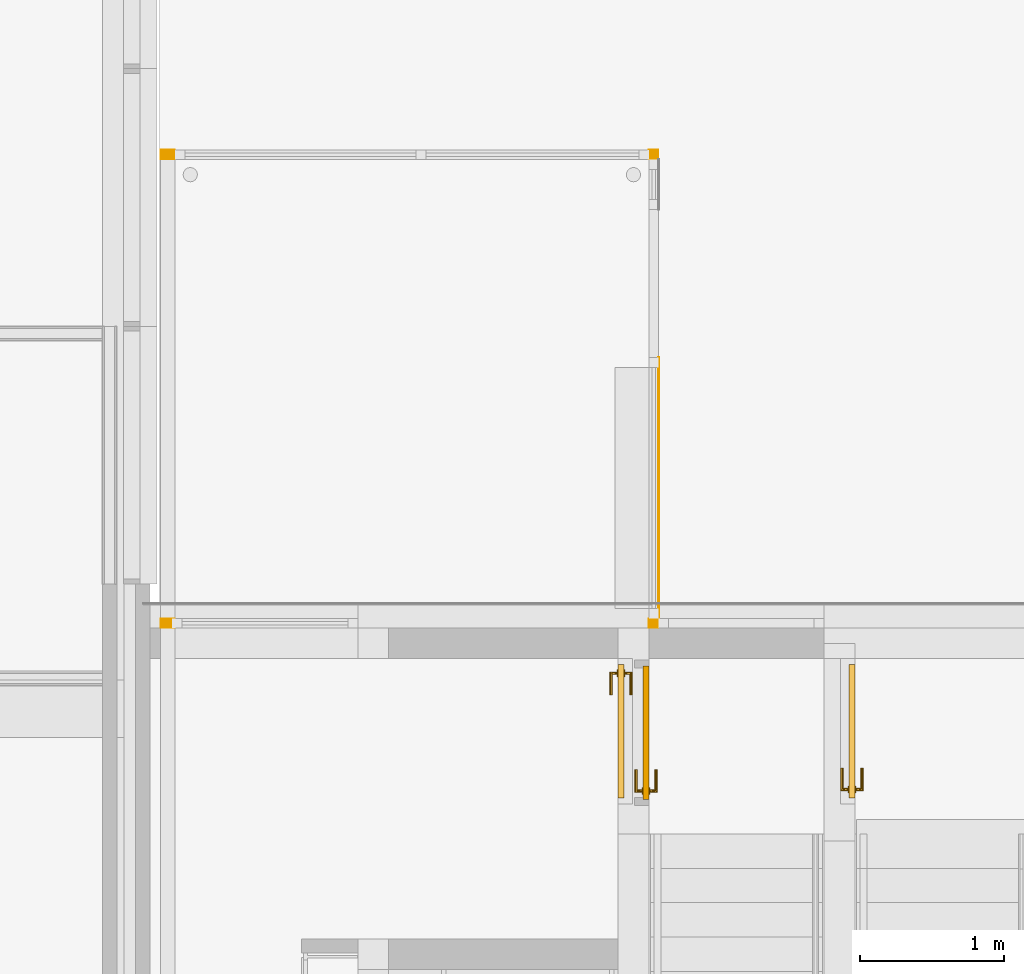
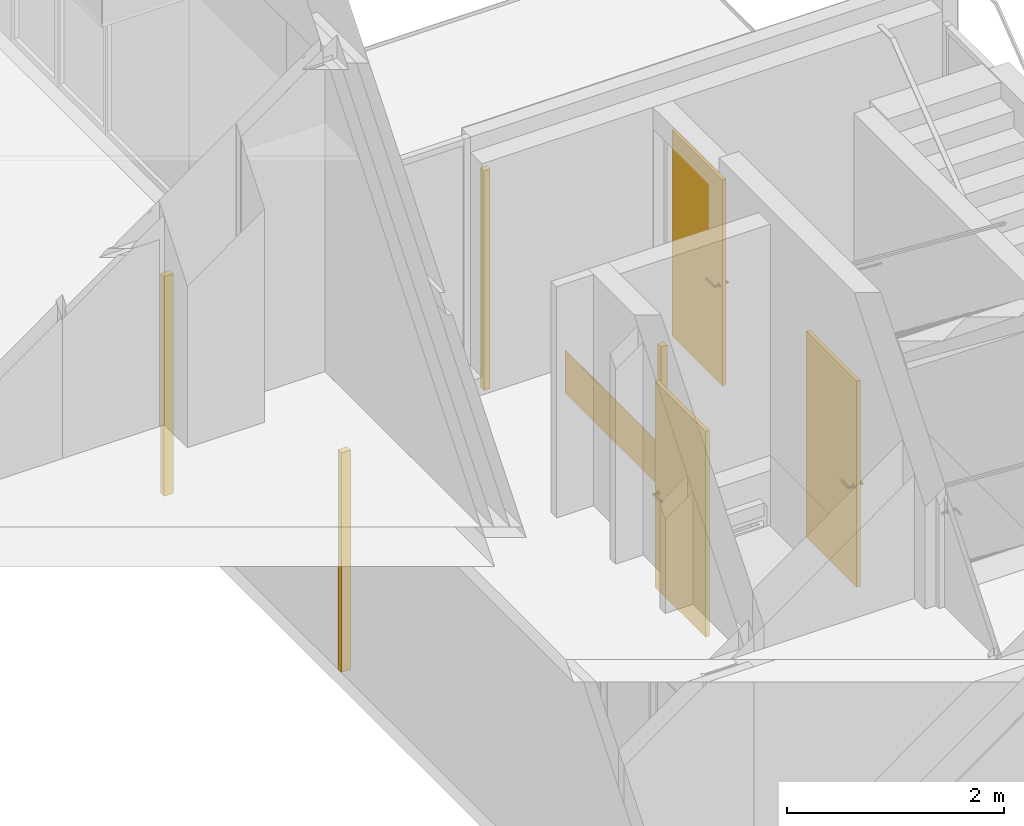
# One storey, part 92 of 117: 3 doors, 3 windows.
"""IFC2X3 building model written with IfcOpenShell, lengths in millimetres."""

from ifc_helpers import new_model, entity, si_unit, converted_unit, derived_unit, money_unit, direction, frame, origin_with_axes, place, context, subcontext, project, spatial, faceted_brep, source, transform, mapped, material, type_object, type_shapes, element, save


model = new_model("IFC2X3")

# Units and contexts
model_context = context("Model", 3, precision=0.01, world=origin_with_axes(), true_north=direction((0.0, 1.0)))
body_context = subcontext(model_context, "Body", "Model", "MODEL_VIEW")
ifc_project = project(units=[si_unit("LENGTHUNIT", "METRE", prefix="MILLI"), si_unit("AREAUNIT", "SQUARE_METRE"), si_unit("VOLUMEUNIT", "CUBIC_METRE"), converted_unit("PLANEANGLEUNIT", "DEGREE", entity("IfcPlaneAngleMeasure", 0.0174532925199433), si_unit("PLANEANGLEUNIT", "RADIAN"), dimensions=[0, 0, 0, 0, 0, 0, 0]), money_unit("EUR"), converted_unit("TIMEUNIT", "Year", entity("IfcTimeMeasure", 31557600.0), si_unit("TIMEUNIT", "SECOND"), dimensions=[0, 0, 1, 0, 0, 0, 0]), si_unit("MASSUNIT", "GRAM", prefix="KILO"), si_unit("THERMODYNAMICTEMPERATUREUNIT", "DEGREE_CELSIUS"), si_unit("LUMINOUSINTENSITYUNIT", "LUMEN"), si_unit("ENERGYUNIT", "JOULE", prefix="MEGA"), derived_unit("THERMALCONDUCTANCEUNIT", [(si_unit("POWERUNIT", "WATT"), 1), (si_unit("LENGTHUNIT", "METRE"), -1), (si_unit("THERMODYNAMICTEMPERATUREUNIT", "KELVIN"), -1)]), derived_unit("SPECIFICHEATCAPACITYUNIT", [(si_unit("ENERGYUNIT", "JOULE"), 1), (si_unit("MASSUNIT", "GRAM", prefix="KILO"), -1), (si_unit("THERMODYNAMICTEMPERATUREUNIT", "KELVIN"), -1)]), derived_unit("MASSDENSITYUNIT", [(si_unit("MASSUNIT", "GRAM", prefix="KILO"), 1), (si_unit("VOLUMEUNIT", "CUBIC_METRE"), -1)])], contexts=[model_context])

# Site, building, storey
site_placement = place(None, origin_with_axes())
site = spatial("IfcSite", under=ifc_project, at=site_placement, Name="Site", CompositionType="ELEMENT")
building_placement = place(site_placement, origin_with_axes())
building = spatial("IfcBuilding", under=site, at=building_placement, Name="Naam gebouw", CompositionType="ELEMENT")
storey_placement = place(building_placement, frame((0.0, 0.0, 4150.0), z_axis=(0.0, 0.0, 1.0), x_axis=(1.0, 0.0, 0.0)))
storey = spatial("IfcBuildingStorey", under=building, at=storey_placement, Name="1e verdieping N", CompositionType="ELEMENT", Elevation=4150.0)

# Doors
ifc_material_1 = material(Name="<Unnamed>")
door_style = type_object("IfcDoorStyle", Name="NLRS_32_deur stomp dicht_WID:Deur", ConstructionType="NOTDEFINED", OperationType="NOTDEFINED", ParameterTakesPrecedence=False, Sizeable=False)
shared_shape = source(origin_with_axes(), body_context, "Body", "Brep", [
    faceted_brep([(410.0000000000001, 65.96445239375, 1091.33974596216), (407.58819045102, 65.96445239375, 1090.34074173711), (417.5000000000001, 65.96445239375, 1078.34936490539), (410.0000000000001, 74.00000000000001, 1091.33974596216), (407.58819045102, 74.00000000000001, 1090.34074173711), (411.4704761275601, 65.96445239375, 1075.85185434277), (422.6776695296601, 65.96445239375, 1082.32233047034), (412.0710678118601, 65.96445239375, 1092.92893218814), (412.0710678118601, 74.00000000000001, 1092.92893218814), (417.5000000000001, 74.00000000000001, 1078.34936490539), (405.0, 74.00000000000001, 1090.0), (405.0, 65.96445239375, 1090.0), (411.4704761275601, 74.00000000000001, 1075.85185434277), (422.6776695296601, 74.00000000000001, 1082.32233047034), (413.66025403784, 74.00000000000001, 1095.0), (413.66025403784, 65.96445239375, 1095.0), (402.41180954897, 65.96445239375, 1090.34074173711), (402.41180954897, 74.00000000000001, 1090.34074173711), (405.0, 65.96445239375, 1075.0), (405.0, 74.00000000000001, 1075.0), (426.6506350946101, 65.96445239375, 1087.5), (426.6506350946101, 74.00000000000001, 1087.5), (414.65925826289, 65.96445239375, 1097.41180954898), (414.65925826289, 74.00000000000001, 1097.41180954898), (400.0, 74.00000000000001, 1091.33974596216), (400.0, 65.96445239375, 1091.33974596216), (398.52952387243, 65.96445239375, 1075.85185434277), (398.52952387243, 74.00000000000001, 1075.85185434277), (429.14814565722, 65.96445239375, 1093.52952387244), (429.14814565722, 74.00000000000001, 1093.52952387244), (415.0000000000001, 65.96445239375, 1100.0), (415.0000000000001, 74.00000000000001, 1100.0), (397.92893218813, 74.00000000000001, 1092.92893218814), (397.92893218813, 65.96445239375, 1092.92893218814), (392.5, 65.96445239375, 1078.34936490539), (392.5, 74.00000000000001, 1078.34936490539), (430.0000000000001, 65.96445239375, 1100.0), (430.0000000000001, 74.00000000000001, 1100.0), (414.65925826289, 65.96445239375, 1102.58819045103), (414.65925826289, 74.00000000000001, 1102.58819045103), (396.3397459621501, 74.00000000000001, 1095.0), (396.3397459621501, 65.96445239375, 1095.0), (387.32233047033, 65.96445239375, 1082.32233047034), (387.32233047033, 74.00000000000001, 1082.32233047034), (429.14814565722, 74.00000000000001, 1106.47047612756), (429.14814565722, 65.96445239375, 1106.47047612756), (413.66025403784, 65.96445239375, 1105.0), (413.66025403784, 74.00000000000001, 1105.0), (395.34074173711, 65.96445239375, 1097.41180954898), (395.34074173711, 74.00000000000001, 1097.41180954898), (383.3493649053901, 74.00000000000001, 1087.5), (383.3493649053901, 65.96445239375, 1087.5), (426.6506350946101, 74.00000000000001, 1112.5), (426.6506350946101, 65.96445239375, 1112.5), (412.0710678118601, 74.00000000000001, 1107.07106781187), (412.0710678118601, 65.96445239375, 1107.07106781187), (380.8518543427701, 74.00000000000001, 1093.52952387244), (395.0, 65.96445239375, 1100.0), (395.0, 74.00000000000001, 1100.0), (380.8518543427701, 65.96445239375, 1093.52952387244), (422.6776695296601, 74.00000000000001, 1117.67766952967), (422.6776695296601, 65.96445239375, 1117.67766952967), (410.0000000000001, 65.96445239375, 1108.66025403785), (410.0000000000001, 74.00000000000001, 1108.66025403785), (380.0000000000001, 74.00000000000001, 1100.0), (395.34074173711, 74.00000000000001, 1102.58819045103), (395.34074173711, 65.96445239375, 1102.58819045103), (380.0000000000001, 65.96445239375, 1100.0), (417.5000000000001, 65.96445239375, 1121.65063509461), (417.5000000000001, 74.00000000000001, 1121.65063509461), (407.58819045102, 65.96445239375, 1109.65925826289), (407.58819045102, 74.00000000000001, 1109.65925826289), (380.8518543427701, 74.00000000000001, 1106.47047612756), (396.3397459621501, 74.00000000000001, 1105.0), (396.3397459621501, 65.96445239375, 1105.0), (380.8518543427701, 65.96445239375, 1106.47047612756), (411.4704761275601, 65.96445239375, 1124.14814565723), (411.4704761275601, 74.00000000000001, 1124.14814565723), (405.0, 65.96445239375, 1110.0), (405.0, 74.00000000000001, 1110.0), (383.3493649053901, 74.00000000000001, 1112.5), (397.92893218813, 74.00000000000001, 1107.07106781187), (397.92893218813, 65.96445239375, 1107.07106781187), (383.3493649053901, 65.96445239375, 1112.5), (405.0, 65.96445239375, 1125.0), (405.0, 74.00000000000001, 1125.0), (402.41180954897, 65.96445239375, 1109.65925826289), (402.41180954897, 74.00000000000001, 1109.65925826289), (387.32233047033, 74.00000000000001, 1117.67766952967), (400.0, 65.96445239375, 1108.66025403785), (400.0, 74.00000000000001, 1108.66025403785), (387.32233047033, 65.96445239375, 1117.67766952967), (398.52952387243, 74.00000000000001, 1124.14814565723), (398.52952387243, 65.96445239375, 1124.14814565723), (392.5, 74.00000000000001, 1121.65063509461), (392.5, 65.96445239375, 1121.65063509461)], [[[0, 1, 2]], [[1, 0, 3, 4]], [[1, 5, 2]], [[6, 0, 2]], [[0, 7, 8, 3]], [[3, 9, 4]], [[10, 11, 1, 4]], [[5, 1, 11]], [[9, 2, 5, 12]], [[0, 6, 7]], [[9, 13, 6, 2]], [[14, 8, 7, 15]], [[13, 3, 8]], [[13, 9, 3]], [[12, 4, 9]], [[16, 11, 10, 17]], [[4, 12, 10]], [[5, 11, 18]], [[12, 5, 18, 19]], [[6, 20, 7]], [[20, 6, 13, 21]], [[21, 8, 14]], [[7, 20, 15]], [[22, 23, 14, 15]], [[13, 8, 21]], [[16, 18, 11]], [[19, 17, 10]], [[16, 17, 24, 25]], [[10, 12, 19]], [[18, 26, 27, 19]], [[28, 20, 21, 29]], [[21, 14, 29]], [[22, 15, 20]], [[30, 31, 23, 22]], [[23, 29, 14]], [[18, 16, 26]], [[17, 19, 27]], [[17, 27, 24]], [[25, 24, 32, 33]], [[16, 25, 26]], [[26, 34, 35, 27]], [[28, 22, 20]], [[36, 28, 29, 37]], [[30, 38, 39, 31]], [[23, 31, 37]], [[28, 30, 22]], [[37, 29, 23]], [[27, 35, 24]], [[32, 24, 35]], [[32, 40, 41, 33]], [[33, 34, 25]], [[34, 26, 25]], [[34, 42, 43, 35]], [[30, 28, 36]], [[44, 45, 36, 37]], [[38, 30, 36]], [[38, 46, 47, 39]], [[44, 31, 39]], [[31, 44, 37]], [[32, 35, 43]], [[43, 40, 32]], [[48, 41, 40, 49]], [[41, 42, 33]], [[34, 33, 42]], [[50, 43, 42, 51]], [[52, 53, 45, 44]], [[36, 45, 38]], [[38, 45, 46]], [[54, 47, 46, 55]], [[39, 47, 52]], [[44, 39, 52]], [[43, 50, 40]], [[48, 51, 41]], [[56, 49, 40]], [[57, 48, 49, 58]], [[51, 42, 41]], [[50, 51, 59, 56]], [[52, 60, 61, 53]], [[53, 46, 45]], [[54, 52, 47]], [[53, 55, 46]], [[62, 63, 54, 55]], [[56, 40, 50]], [[59, 51, 48]], [[64, 49, 56]], [[59, 48, 57]], [[64, 58, 49]], [[57, 58, 65, 66]], [[56, 59, 67, 64]], [[60, 52, 54]], [[68, 61, 60, 69]], [[61, 55, 53]], [[70, 71, 63, 62]], [[63, 60, 54]], [[61, 62, 55]], [[59, 57, 67]], [[72, 58, 64]], [[72, 65, 58]], [[66, 65, 73, 74]], [[67, 57, 66]], [[67, 75, 72, 64]], [[61, 68, 62]], [[60, 63, 69]], [[76, 68, 69, 77]], [[70, 78, 79, 71]], [[63, 71, 69]], [[62, 68, 70]], [[72, 80, 65]], [[65, 80, 73]], [[73, 81, 82, 74]], [[75, 66, 74]], [[67, 66, 75]], [[75, 83, 80, 72]], [[76, 70, 68]], [[71, 77, 69]], [[84, 76, 77, 85]], [[70, 76, 78]], [[79, 78, 86, 87]], [[77, 71, 79]], [[80, 88, 73]], [[73, 88, 81]], [[89, 82, 81, 90]], [[91, 74, 82]], [[75, 74, 83]], [[83, 91, 88, 80]], [[78, 76, 84]], [[77, 79, 85]], [[92, 93, 84, 85]], [[84, 86, 78]], [[86, 89, 90, 87]], [[87, 85, 79]], [[94, 81, 88]], [[82, 89, 95]], [[81, 94, 90]], [[91, 83, 74]], [[82, 95, 91]], [[94, 88, 91, 95]], [[94, 95, 93, 92]], [[86, 84, 93]], [[85, 87, 92]], [[86, 93, 89]], [[87, 90, 92]], [[93, 95, 89]], [[94, 92, 90]]]),
    faceted_brep([(410.0000000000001, 74.00000000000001, 1091.33974596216), (407.58819045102, 74.00000000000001, 1090.34074173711), (405.0, 74.00000000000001, 1090.0), (402.41180954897, 74.00000000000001, 1090.34074173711), (400.0, 74.00000000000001, 1091.33974596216), (397.92893218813, 74.00000000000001, 1092.92893218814), (396.3397459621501, 74.00000000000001, 1095.0), (395.34074173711, 74.00000000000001, 1097.41180954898), (395.0, 74.00000000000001, 1100.0), (395.34074173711, 74.00000000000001, 1102.58819045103), (396.3397459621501, 74.00000000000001, 1105.0), (397.92893218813, 74.00000000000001, 1107.07106781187), (400.0, 74.00000000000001, 1108.66025403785), (402.41180954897, 74.00000000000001, 1109.65925826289), (405.0, 74.00000000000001, 1110.0), (407.58819045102, 74.00000000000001, 1109.65925826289), (410.0000000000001, 74.00000000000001, 1108.66025403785), (412.0710678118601, 74.00000000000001, 1107.07106781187), (413.66025403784, 74.00000000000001, 1105.0), (414.65925826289, 74.00000000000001, 1102.58819045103), (415.0000000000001, 74.00000000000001, 1100.0), (414.65925826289, 74.00000000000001, 1097.41180954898), (413.66025403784, 74.00000000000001, 1095.0), (412.0710678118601, 74.00000000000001, 1092.92893218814), (405.0, 24.0, 1090.0), (402.41180954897, 26.58819045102, 1090.34074173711), (400.0, 29.0, 1091.33974596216), (397.92893218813, 31.07106781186, 1092.92893218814), (396.3397459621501, 32.66025403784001, 1095.0), (395.34074173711, 33.65925826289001, 1097.41180954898), (395.0, 34.0, 1100.0), (395.34074173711, 33.65925826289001, 1102.58819045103), (396.3397459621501, 32.66025403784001, 1105.0), (397.92893218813, 31.07106781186, 1107.07106781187), (400.0, 29.0, 1108.66025403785), (402.41180954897, 26.58819045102, 1109.65925826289), (405.0, 24.0, 1110.0), (407.58819045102, 21.41180954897, 1109.65925826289), (412.0710678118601, 16.92893218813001, 1107.07106781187), (414.65925826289, 14.34074173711, 1102.58819045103), (415.0000000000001, 14.0, 1100.0), (414.65925826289, 14.34074173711, 1097.41180954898), (412.0710678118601, 16.92893218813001, 1092.92893218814), (407.58819045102, 21.41180954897, 1090.34074173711), (255.0, 32.66025403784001, 1095.0), (255.0, 33.65925826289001, 1097.41180954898), (255.0, 34.0, 1100.0), (255.0, 33.65925826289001, 1102.58819045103), (255.0, 32.66025403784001, 1105.0), (410.0000000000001, 19.0, 1108.66025403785), (413.66025403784, 15.33974596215, 1105.0), (255.0, 14.34074173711, 1102.58819045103), (255.0, 14.0, 1100.0), (255.0, 14.34074173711, 1097.41180954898), (413.66025403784, 15.33974596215, 1095.0), (410.0000000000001, 19.0, 1091.33974596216), (255.0, 26.58819045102, 1090.34074173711), (255.0, 24.0, 1090.0), (255.0, 29.0, 1091.33974596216), (255.0, 31.07106781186, 1092.92893218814), (255.0, 21.41180954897, 1090.34074173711), (255.0, 19.0, 1091.33974596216), (255.0, 16.92893218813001, 1092.92893218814), (255.0, 15.33974596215, 1095.0), (255.0, 15.33974596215, 1105.0), (255.0, 16.92893218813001, 1107.07106781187), (255.0, 19.0, 1108.66025403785), (255.0, 21.41180954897, 1109.65925826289), (255.0, 24.0, 1110.0), (255.0, 26.58819045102, 1109.65925826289), (255.0, 29.0, 1108.66025403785), (255.0, 31.07106781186, 1107.07106781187)], [[[0, 1, 2, 3, 4, 5, 6, 7, 8, 9, 10, 11, 12, 13, 14, 15, 16, 17, 18, 19, 20, 21, 22, 23]], [[24, 1, 0]], [[25, 2, 1]], [[3, 2, 26]], [[27, 4, 3]], [[5, 4, 28]], [[5, 28, 6]], [[28, 29, 7, 6]], [[29, 30, 8, 7]], [[30, 31, 9, 8]], [[31, 32, 10, 9]], [[10, 32, 11]], [[12, 11, 32]], [[33, 13, 12]], [[13, 34, 14]], [[14, 35, 15]], [[16, 15, 36]], [[16, 36, 17]], [[17, 37, 18]], [[19, 18, 38]], [[20, 19, 39, 40]], [[20, 40, 41, 21]], [[42, 22, 21]], [[23, 22, 43]], [[0, 23, 24]], [[1, 24, 25]], [[25, 26, 2]], [[26, 27, 3]], [[27, 28, 4]], [[44, 45, 29, 28]], [[45, 46, 30, 29]], [[46, 47, 31, 30]], [[47, 48, 32, 31]], [[32, 33, 12]], [[33, 34, 13]], [[14, 34, 35]], [[35, 36, 15]], [[37, 17, 36]], [[49, 18, 37]], [[38, 18, 49]], [[38, 50, 19]], [[19, 50, 39]], [[51, 52, 40, 39]], [[52, 53, 41, 40]], [[54, 21, 41]], [[22, 42, 55]], [[54, 42, 21]], [[22, 55, 43]], [[23, 43, 24]], [[56, 25, 24, 57]], [[56, 58, 26, 25]], [[58, 59, 27, 26]], [[59, 44, 28, 27]], [[57, 60, 61, 62, 63, 53, 52, 51, 64, 65, 66, 67, 68, 69, 70, 71, 48, 47, 46, 45, 44, 59, 58, 56]], [[48, 71, 33, 32]], [[71, 70, 34, 33]], [[70, 69, 35, 34]], [[68, 36, 35, 69]], [[37, 36, 68, 67]], [[67, 66, 49, 37]], [[66, 65, 38, 49]], [[65, 64, 50, 38]], [[64, 51, 39, 50]], [[53, 63, 54, 41]], [[62, 61, 55, 42]], [[63, 62, 42, 54]], [[61, 60, 43, 55]], [[60, 57, 24, 43]]]),
    faceted_brep([(417.4999999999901, 122.03554760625, 1078.34936490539), (407.58819045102, 122.03554760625, 1090.34074173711), (410.0000000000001, 122.03554760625, 1091.33974596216), (411.4704761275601, 122.03554760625, 1075.85185434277), (410.0000000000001, 114.0, 1091.33974596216), (407.58819045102, 114.0, 1090.34074173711), (422.6776695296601, 122.03554760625, 1082.32233047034), (411.4704761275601, 114.0, 1075.85185434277), (417.4999999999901, 114.0, 1078.34936490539), (405.0, 122.03554760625, 1090.0), (412.0710678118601, 114.0, 1092.92893218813), (412.0710678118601, 122.03554760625, 1092.92893218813), (405.0, 114.0, 1090.0), (422.6776695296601, 114.0, 1082.32233047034), (405.0, 114.0, 1075.0), (405.0, 122.03554760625, 1075.0), (413.66025403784, 122.03554760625, 1095.0), (413.66025403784, 114.0, 1095.0), (402.41180954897, 114.0, 1090.34074173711), (402.41180954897, 122.03554760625, 1090.34074173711), (426.6506350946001, 122.03554760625, 1087.5), (426.6506350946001, 114.0, 1087.5), (398.52952387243, 114.0, 1075.85185434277), (398.52952387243, 122.03554760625, 1075.85185434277), (414.65925826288, 114.0, 1097.41180954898), (414.65925826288, 122.03554760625, 1097.41180954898), (400.0, 122.03554760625, 1091.33974596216), (400.0, 114.0, 1091.33974596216), (429.14814565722, 114.0, 1093.52952387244), (429.14814565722, 122.03554760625, 1093.52952387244), (392.4999999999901, 114.0, 1078.34936490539), (392.4999999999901, 122.03554760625, 1078.34936490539), (415.0000000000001, 114.0, 1100.0), (415.0000000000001, 122.03554760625, 1100.0), (397.92893218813, 122.03554760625, 1092.92893218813), (397.92893218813, 114.0, 1092.92893218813), (430.0000000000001, 122.03554760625, 1100.0), (430.0000000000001, 114.0, 1100.0), (387.32233047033, 114.0, 1082.32233047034), (387.32233047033, 122.03554760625, 1082.32233047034), (414.65925826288, 114.0, 1102.58819045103), (414.65925826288, 122.03554760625, 1102.58819045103), (396.3397459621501, 122.03554760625, 1095.0), (396.3397459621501, 114.0, 1095.0), (429.14814565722, 122.03554760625, 1106.47047612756), (429.14814565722, 114.0, 1106.47047612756), (383.3493649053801, 114.0, 1087.5), (383.3493649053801, 122.03554760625, 1087.5), (413.66025403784, 114.0, 1105.0), (413.66025403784, 122.03554760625, 1105.0), (395.3407417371, 122.03554760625, 1097.41180954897), (395.3407417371, 114.0, 1097.41180954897), (426.6506350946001, 122.03554760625, 1112.5), (426.6506350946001, 114.0, 1112.5), (380.8518543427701, 114.0, 1093.52952387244), (380.8518543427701, 122.03554760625, 1093.52952387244), (412.0710678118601, 122.03554760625, 1107.07106781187), (412.0710678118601, 114.0, 1107.07106781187), (395.0, 122.03554760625, 1100.0), (395.0, 114.0, 1100.0), (422.6776695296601, 122.03554760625, 1117.67766952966), (422.6776695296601, 114.0, 1117.67766952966), (380.0000000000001, 114.0, 1100.0), (380.0000000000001, 122.03554760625, 1100.0), (410.0000000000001, 114.0, 1108.66025403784), (410.0000000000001, 122.03554760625, 1108.66025403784), (395.3407417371, 122.03554760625, 1102.58819045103), (395.3407417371, 114.0, 1102.58819045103), (417.4999999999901, 114.0, 1121.65063509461), (417.4999999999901, 122.03554760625, 1121.65063509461), (380.8518543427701, 114.0, 1106.47047612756), (380.8518543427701, 122.03554760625, 1106.47047612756), (407.58819045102, 114.0, 1109.65925826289), (407.58819045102, 122.03554760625, 1109.65925826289), (396.3397459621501, 122.03554760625, 1105.0), (396.3397459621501, 114.0, 1105.0), (411.4704761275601, 114.0, 1124.14814565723), (411.4704761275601, 122.03554760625, 1124.14814565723), (383.3493649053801, 114.0, 1112.5), (383.3493649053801, 122.03554760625, 1112.5), (405.0, 114.0, 1110.0), (405.0, 122.03554760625, 1110.0), (397.92893218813, 122.03554760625, 1107.07106781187), (397.92893218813, 114.0, 1107.07106781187), (405.0, 122.03554760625, 1125.0), (405.0, 114.0, 1125.0), (387.32233047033, 114.0, 1117.67766952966), (387.32233047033, 122.03554760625, 1117.67766952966), (402.41180954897, 114.0, 1109.65925826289), (402.41180954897, 122.03554760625, 1109.65925826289), (400.0, 122.03554760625, 1108.66025403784), (400.0, 114.0, 1108.66025403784), (398.52952387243, 122.03554760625, 1124.14814565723), (398.52952387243, 114.0, 1124.14814565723), (392.4999999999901, 114.0, 1121.65063509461), (392.4999999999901, 122.03554760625, 1121.65063509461)], [[[0, 1, 2]], [[0, 3, 1]], [[4, 2, 1, 5]], [[0, 2, 6]], [[7, 3, 0, 8]], [[9, 1, 3]], [[10, 11, 2, 4]], [[5, 1, 9, 12]], [[5, 8, 4]], [[11, 6, 2]], [[6, 13, 8, 0]], [[14, 15, 3, 7]], [[8, 5, 7]], [[15, 9, 3]], [[16, 11, 10, 17]], [[10, 4, 13]], [[18, 12, 9, 19]], [[12, 7, 5]], [[4, 8, 13]], [[11, 20, 6]], [[21, 13, 6, 20]], [[22, 23, 15, 14]], [[14, 7, 12]], [[9, 15, 19]], [[16, 20, 11]], [[17, 10, 21]], [[16, 17, 24, 25]], [[21, 10, 13]], [[12, 18, 14]], [[26, 27, 18, 19]], [[28, 21, 20, 29]], [[22, 30, 31, 23]], [[23, 19, 15]], [[22, 14, 18]], [[20, 16, 25]], [[28, 17, 21]], [[17, 28, 24]], [[25, 24, 32, 33]], [[34, 35, 27, 26]], [[27, 22, 18]], [[23, 26, 19]], [[20, 25, 29]], [[28, 29, 36, 37]], [[27, 30, 22]], [[30, 38, 39, 31]], [[26, 23, 31]], [[24, 28, 37]], [[37, 32, 24]], [[40, 41, 33, 32]], [[25, 33, 29]], [[34, 42, 43, 35]], [[30, 27, 35]], [[26, 31, 34]], [[36, 29, 33]], [[37, 36, 44, 45]], [[38, 30, 35]], [[39, 38, 46, 47]], [[39, 34, 31]], [[37, 45, 32]], [[48, 49, 41, 40]], [[36, 33, 41]], [[40, 32, 45]], [[34, 39, 42]], [[43, 42, 50, 51]], [[35, 43, 38]], [[41, 44, 36]], [[45, 44, 52, 53]], [[43, 46, 38]], [[54, 55, 47, 46]], [[42, 39, 47]], [[56, 49, 48, 57]], [[49, 44, 41]], [[53, 48, 40]], [[53, 40, 45]], [[42, 47, 50]], [[51, 50, 58, 59]], [[43, 51, 54]], [[44, 49, 52]], [[60, 61, 53, 52]], [[46, 43, 54]], [[62, 63, 55, 54]], [[50, 47, 55]], [[49, 56, 52]], [[48, 53, 57]], [[56, 57, 64, 65]], [[58, 50, 55]], [[66, 67, 59, 58]], [[51, 59, 62]], [[54, 51, 62]], [[68, 61, 60, 69]], [[57, 53, 61]], [[52, 56, 60]], [[70, 71, 63, 62]], [[63, 58, 55]], [[57, 61, 64]], [[65, 64, 72, 73]], [[56, 65, 60]], [[74, 75, 67, 66]], [[59, 67, 70]], [[66, 58, 63]], [[62, 59, 70]], [[68, 64, 61]], [[65, 69, 60]], [[76, 68, 69, 77]], [[70, 78, 79, 71]], [[71, 66, 63]], [[68, 72, 64]], [[72, 80, 81, 73]], [[73, 69, 65]], [[74, 82, 83, 75]], [[75, 78, 67]], [[74, 66, 71]], [[67, 78, 70]], [[68, 76, 72]], [[69, 73, 77]], [[76, 77, 84, 85]], [[78, 86, 87, 79]], [[79, 74, 71]], [[80, 72, 76]], [[88, 89, 81, 80]], [[81, 77, 73]], [[82, 74, 87]], [[83, 82, 90, 91]], [[83, 86, 75]], [[75, 86, 78]], [[84, 77, 81]], [[85, 84, 92, 93]], [[85, 80, 76]], [[87, 86, 94, 95]], [[74, 79, 87]], [[91, 90, 89, 88]], [[81, 89, 84]], [[80, 85, 88]], [[87, 95, 82]], [[95, 90, 82]], [[91, 94, 83]], [[86, 83, 94]], [[92, 84, 89]], [[93, 92, 95, 94]], [[93, 88, 85]], [[90, 92, 89]], [[93, 91, 88]], [[90, 95, 92]], [[91, 93, 94]]]),
    faceted_brep([(405.0, 114.0, 1090.0), (407.58819045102, 114.0, 1090.34074173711), (410.0000000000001, 114.0, 1091.33974596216), (412.0710678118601, 114.0, 1092.92893218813), (413.66025403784, 114.0, 1095.0), (414.65925826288, 114.0, 1097.41180954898), (415.0000000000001, 114.0, 1100.0), (414.65925826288, 114.0, 1102.58819045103), (413.66025403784, 114.0, 1105.0), (412.0710678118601, 114.0, 1107.07106781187), (410.0000000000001, 114.0, 1108.66025403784), (407.58819045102, 114.0, 1109.65925826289), (405.0, 114.0, 1110.0), (402.41180954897, 114.0, 1109.65925826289), (400.0, 114.0, 1108.66025403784), (397.92893218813, 114.0, 1107.07106781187), (396.3397459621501, 114.0, 1105.0), (395.3407417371, 114.0, 1102.58819045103), (395.0, 114.0, 1100.0), (395.3407417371, 114.0, 1097.41180954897), (396.3397459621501, 114.0, 1095.0), (397.92893218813, 114.0, 1092.92893218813), (400.0, 114.0, 1091.33974596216), (402.41180954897, 114.0, 1090.34074173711), (402.41180954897, 161.41180954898, 1090.34074173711), (405.0, 164.0, 1090.0), (407.58819045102, 166.58819045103, 1090.34074173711), (412.0710678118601, 171.07106781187, 1092.92893218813), (414.65925826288, 173.65925826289, 1097.41180954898), (415.0000000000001, 174.0, 1100.0), (414.65925826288, 173.65925826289, 1102.58819045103), (412.0710678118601, 171.07106781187, 1107.07106781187), (407.58819045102, 166.58819045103, 1109.65925826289), (405.0, 164.0, 1110.0), (402.41180954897, 161.41180954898, 1109.65925826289), (400.0, 159.0, 1108.66025403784), (397.92893218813, 156.92893218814, 1107.07106781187), (396.3397459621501, 155.33974596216, 1105.0), (395.3407417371, 154.3407417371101, 1102.58819045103), (395.0, 154.0, 1100.0), (395.3407417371, 154.3407417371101, 1097.41180954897), (396.3397459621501, 155.33974596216, 1095.0), (397.92893218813, 156.92893218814, 1092.92893218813), (400.0, 159.0, 1091.33974596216), (410.0000000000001, 169.0, 1091.33974596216), (413.66025403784, 172.66025403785, 1095.0), (255.0, 173.65925826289, 1097.41180954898), (255.0, 174.0, 1100.0), (255.0, 173.65925826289, 1102.58819045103), (413.66025403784, 172.66025403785, 1105.0), (410.0000000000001, 169.0, 1108.66025403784), (255.0, 155.33974596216, 1105.0), (255.0, 154.3407417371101, 1102.58819045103), (255.0, 154.0, 1100.0), (255.0, 154.3407417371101, 1097.41180954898), (255.0, 155.33974596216, 1095.0), (255.0, 159.0, 1091.33974596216), (255.0, 161.41180954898, 1090.34074173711), (255.0, 164.0, 1090.0), (255.0, 166.58819045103, 1090.34074173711), (255.0, 169.0, 1091.33974596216), (255.0, 171.07106781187, 1092.92893218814), (255.0, 172.66025403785, 1095.0), (255.0, 156.92893218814, 1092.92893218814), (255.0, 156.92893218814, 1107.07106781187), (255.0, 159.0, 1108.66025403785), (255.0, 161.41180954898, 1109.65925826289), (255.0, 164.0, 1110.0), (255.0, 166.58819045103, 1109.65925826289), (255.0, 169.0, 1108.66025403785), (255.0, 171.07106781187, 1107.07106781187), (255.0, 172.66025403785, 1105.0)], [[[0, 1, 2, 3, 4, 5, 6, 7, 8, 9, 10, 11, 12, 13, 14, 15, 16, 17, 18, 19, 20, 21, 22, 23]], [[1, 0, 24]], [[2, 1, 25]], [[25, 3, 2]], [[26, 4, 3]], [[5, 4, 27]], [[28, 29, 6, 5]], [[29, 30, 7, 6]], [[31, 8, 7]], [[8, 32, 9]], [[9, 33, 10]], [[33, 11, 10]], [[11, 34, 12]], [[12, 35, 13]], [[14, 13, 36]], [[37, 15, 14]], [[15, 37, 16]], [[16, 37, 38, 17]], [[18, 17, 38, 39]], [[19, 18, 39, 40]], [[20, 19, 40, 41]], [[20, 41, 21]], [[41, 22, 21]], [[23, 22, 42]], [[43, 0, 23]], [[0, 43, 24]], [[24, 25, 1]], [[25, 26, 3]], [[26, 44, 4]], [[44, 27, 4]], [[5, 27, 45]], [[28, 46, 47, 29]], [[28, 5, 45]], [[30, 29, 47, 48]], [[30, 49, 7]], [[50, 8, 31]], [[7, 49, 31]], [[32, 8, 50]], [[33, 9, 32]], [[11, 33, 34]], [[34, 35, 12]], [[13, 35, 36]], [[14, 36, 37]], [[38, 37, 51, 52]], [[39, 38, 52, 53]], [[39, 53, 54, 40]], [[40, 54, 55, 41]], [[22, 41, 42]], [[23, 42, 43]], [[43, 56, 57, 24]], [[58, 25, 24, 57]], [[26, 25, 58, 59]], [[26, 59, 60, 44]], [[44, 60, 61, 27]], [[27, 61, 62, 45]], [[45, 62, 46, 28]], [[60, 59, 58, 57, 56, 63, 55, 54, 53, 52, 51, 64, 65, 66, 67, 68, 69, 70, 71, 48, 47, 46, 62, 61]], [[49, 30, 48, 71]], [[50, 31, 70, 69]], [[31, 49, 71, 70]], [[32, 50, 69, 68]], [[68, 67, 33, 32]], [[34, 33, 67, 66]], [[35, 34, 66, 65]], [[36, 35, 65, 64]], [[37, 36, 64, 51]], [[41, 55, 63, 42]], [[42, 63, 56, 43]]]),
    faceted_brep([(465.0, 114.0, 0.0), (465.0, 74.00000000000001, 0.0), (-465.0, 74.00000000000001, 0.0), (-465.0, 114.0, 0.0), (465.0, 114.0, 2315.0), (465.0, 74.00000000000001, 2315.0), (-465.0, 74.00000000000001, 2315.0), (-465.0, 114.0, 2315.0)], [[[0, 1, 2, 3]], [[4, 5, 1, 0]], [[5, 6, 2, 1]], [[6, 7, 3, 2]], [[7, 4, 0, 3]], [[4, 7, 6, 5]]]),
])
type_shapes(door_style, [shared_shape])
for number, where, z_axis, x_axis, name in (
    (1, (35033.00000004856, 38458.91242631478, -3770.00000000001), (0.0, 0.0, 1.0), (0.0, -1.0, 0.0), "NLRS_32_deur stomp dicht_WID:Deur"),
    (2, (33599.00000004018, 38448.91242636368, -1000.0), (0.0, 0.0, 1.0), (0.0, -1.0, 0.0), "NLRS_32_deur stomp dicht_WID:Deur"),
    (3, (33613.00000003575, 38458.91242625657, -3770.00000000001), (0.0, 0.0, 1.0), (0.0, 1.0, 0.0), "NLRS_32_deur stomp dicht_WID:Deur"),
):
    element("IfcDoor", number, at=place(storey_placement, frame(where, z_axis=z_axis, x_axis=x_axis)), inside=storey, type_object=door_style, material=ifc_material_1, Name=name, ObjectType="DOOR", context=body_context, shape_type="MappedRepresentation", body=[
        mapped(shared_shape, transform((0.0, 0.0, 0.0))),
    ])

# Windows
ifc_material_2 = material(Name="Aluminum geanodiseerd RAL 7024")
window_style_1 = type_object("IfcWindowStyle", Name="RVS plaat:RVS plaat", ConstructionType="NOTDEFINED", OperationType="NOTDEFINED", ParameterTakesPrecedence=False, Sizeable=False)
window_1_placement = place(storey_placement, frame((13995.49999876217, 42846.97662654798, 0.0), z_axis=(0.0, 0.0, 1.0), x_axis=(1.0, 0.0, 0.0)))
element("IfcWindow", 4, at=window_1_placement, inside=storey, type_object=window_style_1, material=ifc_material_2, Name="RVS plaat:RVS plaat", ObjectType="WINDOW", context=body_context, shape_type="Brep", body=[
    faceted_brep([(19787.50000128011, -3602.06420022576, -2981.666666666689), (19787.50000128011, -1782.364200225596, -2981.666666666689), (19787.50000128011, -1782.364200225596, -2502.166666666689), (19787.50000128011, -3602.06420022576, -2502.166666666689), (19782.50000128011, -3602.06420022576, -2981.666666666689), (19782.50000128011, -1782.364200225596, -2981.666666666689), (19782.50000128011, -1782.364200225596, -2502.166666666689), (19782.50000128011, -3602.06420022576, -2502.166666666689)], [[[0, 1, 2, 3]], [[0, 4, 5, 1]], [[1, 5, 6, 2]], [[3, 2, 6, 7]], [[4, 0, 3, 7]], [[5, 4, 7, 6]]]),
])
ifc_material_3 = material(Name="Beton C")
window_style_2 = type_object("IfcWindowStyle", Name="Beton C", ConstructionType="NOTDEFINED", OperationType="NOTDEFINED", ParameterTakesPrecedence=False, Sizeable=False)
window_2_placement = place(storey_placement, frame((24030.00001268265, 22726.91242501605, 0.0), z_axis=(0.0, 0.0, 1.0), x_axis=(0.0, 1.0, 0.0)))
element("IfcWindow", 5, at=window_2_placement, inside=storey, type_object=window_style_2, material=ifc_material_3, Name="Hoekstijl Entree1:Hoekstijl Entree", ObjectType="WINDOW", context=body_context, shape_type="Brep", body=[
    faceted_brep([(16518.00000127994, -6380.99998734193, -3770.0), (16518.00000127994, -6280.99998734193, -3770.0), (16518.00000127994, -6280.99998734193, -1299.99999999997), (16518.00000127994, -6380.99998734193, -1299.99999999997), (16453.00000127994, -6380.99998734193, -3770.0), (16453.00000127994, -6280.99998734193, -3770.0), (16453.00000127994, -6280.99998734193, -1299.99999999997), (16453.00000127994, -6380.99998734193, -1299.99999999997)], [[[0, 1, 2, 3]], [[0, 4, 5, 1]], [[5, 6, 2, 1]], [[7, 3, 2, 6]], [[4, 0, 3, 7]], [[5, 4, 7, 6]]]),
    faceted_brep([(19717.5000012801, -6380.99998734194, -3770.0), (19717.5000012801, -6380.99998734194, -1299.99999999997), (19717.5000012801, -6280.99998734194, -1299.99999999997), (19717.5000012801, -6280.99998734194, -3770.0), (19782.73056866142, -6380.99998734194, -3770.0), (19782.73056866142, -6380.99998734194, -1299.99999999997), (19782.73056866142, -6280.99998734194, -1299.99999999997), (19782.73056866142, -6280.99998734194, -3770.0)], [[[0, 1, 2, 3]], [[0, 4, 5, 1]], [[1, 5, 6, 2]], [[7, 3, 2, 6]], [[4, 0, 3, 7]], [[5, 4, 7, 6]]]),
])
window_3_placement = place(storey_placement, frame((27431.00001269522, 22726.91242501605, 0.0), z_axis=(0.0, 0.0, 1.0), x_axis=(0.0, 1.0, 0.0)))
element("IfcWindow", 6, at=window_3_placement, inside=storey, type_object=window_style_2, material=ifc_material_3, Name="Hoekstijl Entree:Hoekstijl Entree", ObjectType="WINDOW", context=body_context, shape_type="Brep", body=[
    faceted_brep([(16453.00000127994, -6345.99998734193, -3770.0), (16518.00000127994, -6345.99998734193, -3770.0), (16518.00000127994, -6345.99998734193, -1299.99999999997), (16453.00000127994, -6345.99998734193, -1299.99999999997), (16453.00000127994, -6280.99998734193, -3770.0), (16518.00000127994, -6280.99998734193, -3770.0), (16518.00000127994, -6280.99998734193, -1299.99999999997), (16453.00000127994, -6280.99998734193, -1299.99999999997)], [[[0, 1, 2, 3]], [[1, 0, 4, 5]], [[1, 5, 6, 2]], [[3, 2, 6, 7]], [[4, 0, 3, 7]], [[4, 7, 6, 5]]]),
    faceted_brep([(19717.5000012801, -6345.99998734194, -3770.0), (19782.73056866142, -6345.99998734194, -3770.0), (19782.73056866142, -6345.99998734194, -1299.99999999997), (19717.5000012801, -6345.99998734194, -1299.99999999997), (19717.5000012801, -6280.99998734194, -3770.0), (19782.73056866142, -6280.99998734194, -3770.0), (19782.73056866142, -6280.99998734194, -1299.99999999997), (19717.5000012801, -6280.99998734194, -1299.99999999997)], [[[0, 1, 2, 3]], [[1, 0, 4, 5]], [[2, 1, 5, 6]], [[3, 2, 6, 7]], [[0, 3, 7, 4]], [[5, 4, 7, 6]]]),
])

save(model, "model.ifc")
